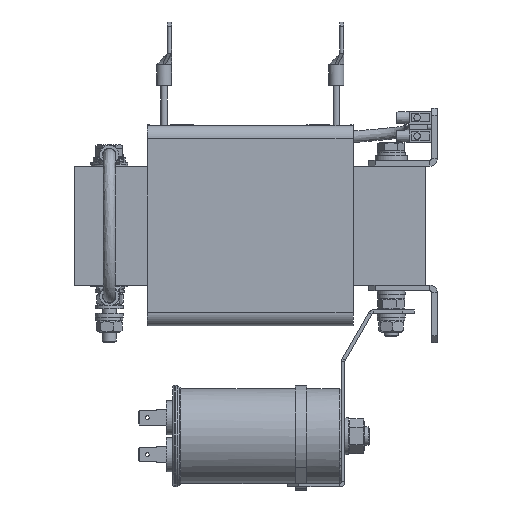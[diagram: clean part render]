
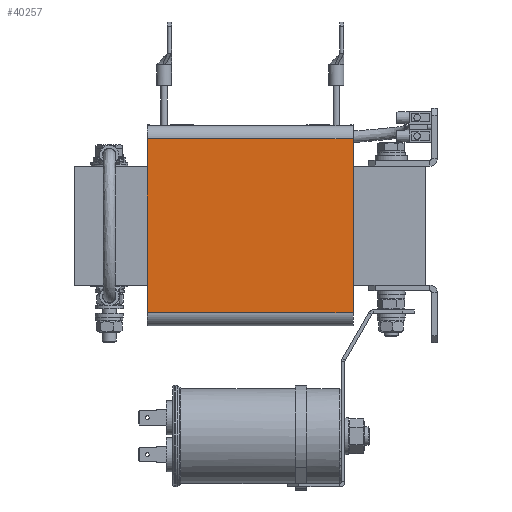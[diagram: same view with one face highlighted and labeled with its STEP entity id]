
A CAD part, left-side view. The second image highlights one B-rep face of the part: STEP entity #40257.
In plain terms, the highlighted planar face has unit normal (-1, 0, 0).
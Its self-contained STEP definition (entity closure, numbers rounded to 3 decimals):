
#2415=PLANE('',#43319);
#4762=FACE_OUTER_BOUND('',#7110,.T.);
#7110=EDGE_LOOP('',(#33658,#33659,#33660,#33661));
#7951=LINE('',#55697,#11444);
#7961=LINE('',#55724,#11454);
#10495=LINE('',#66239,#13988);
#10496=LINE('',#66241,#13989);
#11444=VECTOR('',#44785,10.);
#11454=VECTOR('',#44805,10.);
#13988=VECTOR('',#51791,10.);
#13989=VECTOR('',#51794,10.);
#16333=VERTEX_POINT('',#55694);
#16334=VERTEX_POINT('',#55696);
#16345=VERTEX_POINT('',#55721);
#16346=VERTEX_POINT('',#55723);
#20120=EDGE_CURVE('',#16333,#16334,#7951,.T.);
#20134=EDGE_CURVE('',#16345,#16346,#7961,.T.);
#24039=EDGE_CURVE('',#16333,#16346,#10495,.T.);
#24040=EDGE_CURVE('',#16334,#16345,#10496,.T.);
#33658=ORIENTED_EDGE('',*,*,#24040,.F.);
#33659=ORIENTED_EDGE('',*,*,#20120,.F.);
#33660=ORIENTED_EDGE('',*,*,#24039,.T.);
#33661=ORIENTED_EDGE('',*,*,#20134,.F.);
#40257=ADVANCED_FACE('',(#4762),#2415,.T.);
#43319=AXIS2_PLACEMENT_3D('',#66240,#51792,#51793);
#44785=DIRECTION('',(0.,0.,1.));
#44805=DIRECTION('',(0.,0.,-1.));
#51791=DIRECTION('',(0.,-1.,0.));
#51792=DIRECTION('center_axis',(-1.,0.,0.));
#51793=DIRECTION('ref_axis',(0.,0.,1.));
#51794=DIRECTION('',(0.,-1.,0.));
#55694=CARTESIAN_POINT('',(-89.,44.5,-37.6));
#55696=CARTESIAN_POINT('',(-89.,44.5,37.6));
#55697=CARTESIAN_POINT('',(-89.,44.5,37.6));
#55721=CARTESIAN_POINT('',(-89.,-44.5,37.6));
#55723=CARTESIAN_POINT('',(-89.,-44.5,-37.6));
#55724=CARTESIAN_POINT('',(-89.,-44.5,37.6));
#66239=CARTESIAN_POINT('',(-89.,0.,-37.6));
#66240=CARTESIAN_POINT('Origin',(-89.,0.,-37.6));
#66241=CARTESIAN_POINT('',(-89.,0.,37.6));
